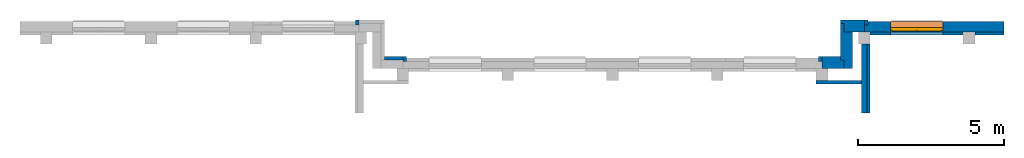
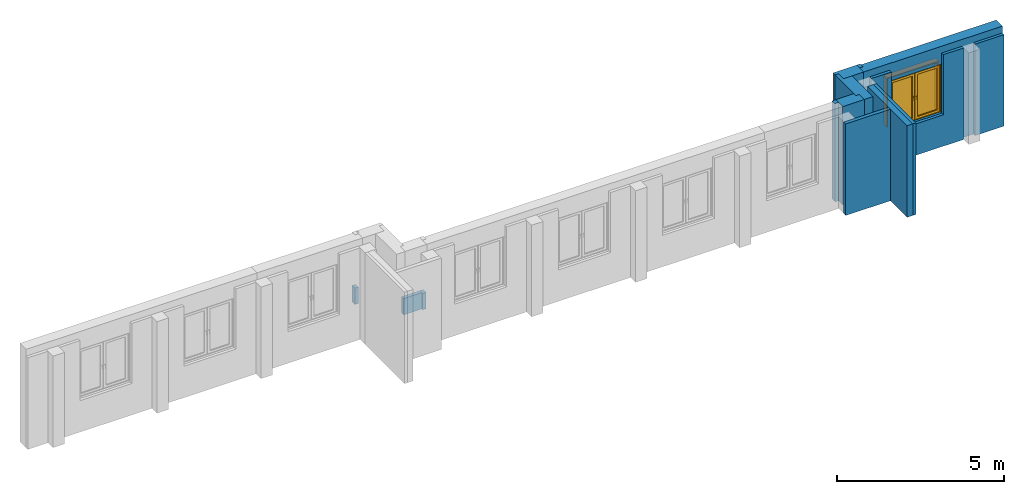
# One storey, part 4 of 7: 14 walls, 1 proxy, 1 window, 2 openings.
"""IFC4 building model written with IfcOpenShell, lengths in metres."""

from ifc_helpers import new_model, entity, si_unit, converted_unit, derived_unit, frame, frame_2d, origin, origin_with_axes, place, context, subcontext, project, spatial, polyline, rectangle, outline, extrude, closed_shell, open_shell, faceted_brep, surface_model, source, transform, mapped, material, layer, layer_set, layer_usage, element, fill, save


model = new_model("IFC4")

# Units and contexts
model_context = context("Model", 3, precision=1e-05, world=origin())
body_context = subcontext(model_context, "Body", "Model", "MODEL_VIEW")
ifc_project = project(units=[si_unit("LENGTHUNIT", "METRE"), si_unit("AREAUNIT", "SQUARE_METRE"), si_unit("VOLUMEUNIT", "CUBIC_METRE"), si_unit("MASSUNIT", "GRAM", prefix="KILO"), converted_unit("PLANEANGLEUNIT", "DEGREE", entity("IfcPlaneAngleMeasure", 0.0174532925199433), si_unit("PLANEANGLEUNIT", "RADIAN"), dimensions=[0, 0, 0, 0, 0, 0, 0]), derived_unit("THERMALTRANSMITTANCEUNIT", [(si_unit("POWERUNIT", "WATT"), 1), (si_unit("THERMODYNAMICTEMPERATUREUNIT", "KELVIN"), -1), (si_unit("LENGTHUNIT", "METRE"), -2)]), derived_unit("VOLUMETRICFLOWRATEUNIT", [(si_unit("LENGTHUNIT", "METRE"), 3), (converted_unit("TIMEUNIT", "hour", entity("IfcTimeMeasure", 3600.0), si_unit("TIMEUNIT", "SECOND"), dimensions=[0, 0, 1, 0, 0, 0, 0]), -1), (si_unit("LENGTHUNIT", "METRE"), -1)])], contexts=[model_context])

# Site, building, storey
site_placement = place(None, origin())
site = spatial("IfcSite", under=ifc_project, at=site_placement, Name="3. ASŘ", CompositionType="ELEMENT")
building_placement = place(site_placement, origin())
building = spatial("IfcBuilding", under=site, at=building_placement, Name="Pavilon B", CompositionType="ELEMENT")
storey_placement = place(building_placement, frame((0.0, 0.0, 3.6)))
storey = spatial("IfcBuildingStorey", under=building, at=storey_placement, Name="Půdorys 2.NP", CompositionType="ELEMENT", Elevation=3.6)

# Walls
ifc_material_1 = material(Name="ZDIVO Z CDm")
ifc_layer_1 = layer(ifc_material_1, 0.125)
ifc_layer_set_1 = layer_set([ifc_layer_1])
ifc_layer_usage_1 = layer_usage(ifc_layer_set_1, "AXIS2", "POSITIVE", 0.0)
wall_1_placement = place(storey_placement, frame((49.0, -17.25, -0.1), z_axis=(0.0, 0.0, 1.0), x_axis=(-1.0, 0.0, 0.0)))
element("IfcWall", 1, at=wall_1_placement, inside=storey, material=ifc_layer_usage_1, Name="ZDIVO Z CDm", context=body_context, shape_type="SweptSolid", body=[
    extrude(rectangle(XDim=1.55, YDim=0.125, at=frame_2d((0.775, 0.0625), x_axis=(1.0, 0.0))), origin_with_axes(), (0.0, 0.0, 1.0), 3.35),
])
ifc_material_2 = material(Name="ZELEZOBETONOVÁ KCE")
ifc_layer_2 = layer(ifc_material_2, 0.2)
ifc_layer_set_2 = layer_set([ifc_layer_2])
ifc_layer_usage_2 = layer_usage(ifc_layer_set_2, "AXIS2", "POSITIVE", -0.1)
wall_2_placement = place(storey_placement, frame((49.0, -16.0, -0.1), z_axis=(0.0, 0.0, 1.0), x_axis=(0.0, -1.0, 0.0)))
element("IfcWall", 2, at=wall_2_placement, inside=storey, material=ifc_layer_usage_2, Name="ZELEZOBETONOVÁ KCE", context=body_context, shape_type="SweptSolid", body=[
    extrude(rectangle(XDim=2.375, YDim=0.2, at=frame_2d((1.1875, 0.1), x_axis=(1.0, 0.0))), origin_with_axes(), (0.0, 0.0, 1.0), 3.35),
])
ifc_material_3 = material(Name="PÓROBETONOVÉ ZDIVO")
ifc_layer_3 = layer(ifc_material_3, 0.1)
ifc_layer_set_3 = layer_set([ifc_layer_3])
ifc_layer_usage_3 = layer_usage(ifc_layer_set_3, "AXIS2", "POSITIVE", 0.0)
wall_3_placement = place(storey_placement, frame((53.9, -15.6, -0.1), z_axis=(0.0, 0.0, 1.0), x_axis=(-1.0, 0.0, 0.0)))
element("IfcWall", 3, at=wall_3_placement, inside=storey, material=ifc_layer_usage_3, Name="PÓROBETONOVÉ ZDIVO", context=body_context, shape_type="SweptSolid", body=[
    extrude(rectangle(XDim=1.0, YDim=0.1, at=frame_2d((0.5, 0.05), x_axis=(1.0, 0.0))), origin_with_axes(), (0.0, 0.0, 1.0), 3.35),
])

# Wall, opening
ifc_material_4 = material(Name="PÓROBETONOVÉ ZDIVO")
ifc_layer_4 = layer(ifc_material_4, 0.1)
ifc_layer_set_4 = layer_set([ifc_layer_4])
ifc_layer_usage_4 = layer_usage(ifc_layer_set_4, "AXIS2", "POSITIVE", 0.0)
wall_4_placement = place(storey_placement, frame((52.5, -15.6, -0.1), z_axis=(0.0, 0.0, 1.0), x_axis=(-1.0, 0.0, 0.0)))
wall_4 = element("IfcWall", 4, at=wall_4_placement, inside=storey, material=ifc_layer_usage_4, Name="PÓROBETONOVÉ ZDIVO", context=body_context, shape_type="SweptSolid", body=[
    extrude(rectangle(XDim=3.2, YDim=0.1, at=frame_2d((1.6, 0.05), x_axis=(1.0, 0.0))), origin_with_axes(), (0.0, 0.0, 1.0), 3.35),
])
opening_1_placement = place(wall_4_placement, frame((2.5, 0.1, 1.15), z_axis=(0.0, -1.0, 0.0), x_axis=(0.0, 0.0, 1.0)))
element("IfcOpeningElement", 5, at=opening_1_placement, cuts=wall_4, Name="Okenní otvor", ObjectType="Opening", context=body_context, shape_type="SweptSolid", body=[
    extrude(outline(polyline([(0.0, 1.8), (2.2, 1.8), (2.2, 0.0), (0.0, 0.0), (0.0, 1.8)])), origin_with_axes(), (0.0, 0.0, 1.0), 0.1),
])

# Walls
ifc_material_5 = material(Name="PÓROBETONOVÉ ZDIVO")
ifc_layer_5 = layer(ifc_material_5, 0.1)
ifc_layer_set_5 = layer_set([ifc_layer_5])
ifc_layer_usage_5 = layer_usage(ifc_layer_set_5, "AXIS2", "POSITIVE", 0.0)
wall_5_placement = place(storey_placement, frame((49.2, -16.0, -0.1), z_axis=(0.0, 0.0, 1.0), x_axis=(0.0, -1.0, 0.0)))
element("IfcWall", 6, at=wall_5_placement, inside=storey, material=ifc_layer_usage_5, Name="PÓROBETONOVÉ ZDIVO", context=body_context, shape_type="SweptSolid", body=[
    extrude(rectangle(XDim=2.375, YDim=0.1, at=frame_2d((1.1875, 0.05), x_axis=(1.0, 0.0))), origin_with_axes(), (0.0, 0.0, 1.0), 3.35),
])
ifc_material_6 = material(Name="MINERÁLNÍ VATA")
ifc_layer_6 = layer(ifc_material_6, 0.12)
ifc_layer_set_6 = layer_set([ifc_layer_6])
ifc_layer_usage_6 = layer_usage(ifc_layer_set_6, "AXIS2", "POSITIVE", 0.0)
wall_6_placement = place(storey_placement, frame((47.65, -16.6, -0.1), z_axis=(0.0, 0.0, 1.0), x_axis=(0.0, 1.0, 0.0)))
element("IfcWall", 7, at=wall_6_placement, inside=storey, material=ifc_layer_usage_6, Name="ZELEZOBETONOVÁ KCE", context=body_context, shape_type="SweptSolid", body=[
    extrude(rectangle(XDim=0.17, YDim=0.12, at=frame_2d((0.085, 0.06), x_axis=(1.0, 0.0))), origin_with_axes(), (0.0, 0.0, 1.0), 3.6),
])
ifc_material_7 = material(Name="ZELEZOBETONOVÁ KCE")
ifc_layer_7 = layer(ifc_material_7, 0.3)
ifc_material_8 = material(Name="MINERÁLNÍ VATA")
ifc_layer_8 = layer(ifc_material_8, 0.12)
ifc_layer_set_7 = layer_set([ifc_layer_7, ifc_layer_8])
ifc_layer_usage_7 = layer_usage(ifc_layer_set_7, "AXIS2", "POSITIVE", 0.0)
wall_7_placement = place(storey_placement, frame((47.65, -16.85, -0.1)))
element("IfcWall", 8, at=wall_7_placement, inside=storey, material=ifc_layer_usage_7, Name="ZELEZOBETONOVÁ KCE", context=body_context, shape_type="SweptSolid", body=[
    extrude(outline(polyline([(0.0, 0.0), (0.75, 0.0), (0.75, 0.3), (0.63, 0.3), (0.63, 0.42), (0.0, 0.42), (0.0, 0.0)])), origin_with_axes(), (0.0, 0.0, 1.0), 3.6),
])
ifc_material_9 = material(Name="ZELEZOBETONOVÁ KCE")
ifc_layer_9 = layer(ifc_material_9, 0.3)
ifc_material_10 = material(Name="MINERÁLNÍ VATA")
ifc_layer_10 = layer(ifc_material_10, 0.12)
ifc_layer_set_8 = layer_set([ifc_layer_9, ifc_layer_10])
ifc_layer_usage_8 = layer_usage(ifc_layer_set_8, "AXIS2", "POSITIVE", 0.0)
wall_8_placement = place(storey_placement, frame((48.7, -16.85, -0.1), z_axis=(0.0, 0.0, 1.0), x_axis=(0.0, 1.0, 0.0)))
element("IfcWall", 9, at=wall_8_placement, inside=storey, material=ifc_layer_usage_8, Name="ZELEZOBETONOVÁ KCE", context=body_context, shape_type="SweptSolid", body=[
    extrude(outline(polyline([(0.0, -0.42), (1.25, -0.42), (1.25, -0.12), (1.55, -0.12), (1.55, 0.0), (0.3, 0.0), (0.3, -0.12), (0.0, -0.12), (0.0, -0.42)])), frame((0.0, 0.42, 0.0), z_axis=(0.0, 0.0, 1.0), x_axis=(1.0, 0.0, 0.0)), (0.0, 0.0, 1.0), 3.6),
])
ifc_material_11 = material(Name="ZELEZOBETONOVÁ KCE")
ifc_layer_11 = layer(ifc_material_11, 0.3)
ifc_material_12 = material(Name="MINERÁLNÍ VATA")
ifc_layer_12 = layer(ifc_material_12, 0.12)
ifc_layer_set_9 = layer_set([ifc_layer_11, ifc_layer_12])
ifc_layer_usage_9 = layer_usage(ifc_layer_set_9, "AXIS2", "POSITIVE", 0.0)
wall_9_placement = place(storey_placement, frame((48.4, -15.6, -0.1)))
element("IfcWall", 10, at=wall_9_placement, inside=storey, material=ifc_layer_usage_9, Name="ZELEZOBETONOVÁ KCE", context=body_context, shape_type="SweptSolid", body=[
    extrude(outline(polyline([(0.0, 0.42), (0.0, 0.3), (0.12, 0.3), (0.12, 0.0), (0.82, 0.0), (0.82, 0.42), (0.0, 0.42)])), frame((-0.12, 0.0, 0.0), z_axis=(0.0, 0.0, 1.0), x_axis=(1.0, 0.0, 0.0)), (0.0, 0.0, 1.0), 3.6),
])
ifc_material_13 = material(Name="MINERÁLNÍ VATA")
ifc_layer_13 = layer(ifc_material_13, 0.12)
ifc_layer_set_10 = layer_set([ifc_layer_13])
ifc_layer_usage_10 = layer_usage(ifc_layer_set_10, "AXIS2", "POSITIVE", 0.0)
wall_10_placement = place(storey_placement, frame((49.1, -15.18, -0.1), z_axis=(0.0, 0.0, 1.0), x_axis=(0.0, -1.0, 0.0)))
element("IfcWall", 11, at=wall_10_placement, inside=storey, material=ifc_layer_usage_10, Name="ZELEZOBETONOVÁ KCE", context=body_context, shape_type="SweptSolid", body=[
    extrude(rectangle(XDim=0.17, YDim=0.12, at=frame_2d((0.085, 0.06), x_axis=(1.0, 0.0))), origin_with_axes(), (0.0, 0.0, 1.0), 3.6),
])

# Wall, opening, window, proxy
ifc_material_14 = material(Name="ZELEZOBETONOVÁ KCE")
ifc_layer_14 = layer(ifc_material_14, 0.25)
ifc_material_15 = material(Name="MINERÁLNÍ VATA")
ifc_layer_15 = layer(ifc_material_15, 0.12)
ifc_layer_set_11 = layer_set([ifc_layer_14, ifc_layer_15])
ifc_layer_usage_11 = layer_usage(ifc_layer_set_11, "AXIS2", "POSITIVE", 0.0)
wall_11_placement = place(storey_placement, frame((49.1, -15.6, -0.1)))
wall_11 = element("IfcWall", 12, at=wall_11_placement, inside=storey, material=ifc_layer_usage_11, Name="ZELEZOBETONOVÁ KCE", context=body_context, shape_type="SweptSolid", body=[
    extrude(outline(polyline([(0.12, 0.37), (0.12, 0.25), (0.0, 0.25), (0.0, 0.0), (4.8, 0.0), (4.8, 0.37), (0.12, 0.37)])), origin_with_axes(), (0.0, 0.0, 1.0), 3.6),
])
opening_2_placement = place(wall_11_placement, frame((2.7, 0.37, 1.15), z_axis=(0.0, -1.0, 0.0), x_axis=(0.0, 0.0, 1.0)))
opening_2 = element("IfcOpeningElement", 13, at=opening_2_placement, cuts=wall_11, Name="Okenní otvor", ObjectType="Opening", context=body_context, shape_type="SweptSolid", body=[
    extrude(outline(polyline([(0.0, 1.8), (1.8, 1.8), (1.8, 0.0), (0.0, 0.0), (0.0, 1.8)])), origin_with_axes(), (0.0, 0.0, 1.0), 0.12),
    extrude(outline(polyline([(0.0, 1.8), (1.8, 1.8), (1.8, 0.0), (0.0, 0.0), (0.0, 1.8)])), frame((0.0, 0.0, 0.12), z_axis=(0.0, 0.0, 1.0), x_axis=(1.0, 0.0, 0.0)), (0.0, 0.0, 1.0), 0.25),
])
shared_shape = source(origin_with_axes(), body_context, "Body", "SurfaceModel", [
    surface_model("IfcShellBasedSurfaceModel", [(0.0, 0.182, 1.8), (0.0, 0.182, -5.63337527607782e-18), (0.08, 0.182, -5.63337527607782e-18), (0.08, 0.182, 1.8), (0.0, 0.0899999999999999, 5.63337527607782e-18), (0.0, 0.0900000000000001, 1.8), (0.08, 0.0900000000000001, 1.8), (0.08, 0.0899999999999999, 5.63337527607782e-18)], [closed_shell([[[0, 1, 2, 3]], [[4, 5, 6, 7]], [[1, 0, 5, 4]], [[2, 1, 4, 7]], [[3, 2, 7, 6]], [[0, 3, 6, 5]]], orient=[[False], [False], [False], [False], [False], [False]])]),
    surface_model("IfcShellBasedSurfaceModel", [(1.72, 0.182, 1.8), (1.72, 0.182, -5.63337527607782e-18), (1.8, 0.182, -5.63337527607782e-18), (1.8, 0.182, 1.8), (1.72, 0.0899999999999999, 5.63337527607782e-18), (1.72, 0.0900000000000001, 1.8), (1.8, 0.0900000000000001, 1.8), (1.8, 0.0899999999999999, 5.63337527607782e-18)], [closed_shell([[[0, 1, 2, 3]], [[4, 5, 6, 7]], [[1, 0, 5, 4]], [[2, 1, 4, 7]], [[3, 2, 7, 6]], [[0, 3, 6, 5]]], orient=[[False], [False], [False], [False], [False], [False]])]),
    surface_model("IfcShellBasedSurfaceModel", [(0.08, 0.182, 0.08), (0.08, 0.182, -5.63337527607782e-18), (1.72, 0.182, -5.63337527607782e-18), (1.72, 0.182, 0.08), (0.08, 0.0899999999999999, 5.63337527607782e-18), (0.08, 0.0899999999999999, 0.08), (1.72, 0.0899999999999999, 0.08), (1.72, 0.0899999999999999, 5.63337527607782e-18)], [closed_shell([[[0, 1, 2, 3]], [[4, 5, 6, 7]], [[1, 0, 5, 4]], [[2, 1, 4, 7]], [[3, 2, 7, 6]], [[0, 3, 6, 5]]], orient=[[False], [False], [False], [False], [False], [False]])]),
    surface_model("IfcShellBasedSurfaceModel", [(0.08, 0.182, 1.8), (0.08, 0.182, 1.72), (1.72, 0.182, 1.72), (1.72, 0.182, 1.8), (0.08, 0.0900000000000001, 1.72), (0.08, 0.0900000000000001, 1.8), (1.72, 0.0900000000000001, 1.8), (1.72, 0.0900000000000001, 1.72)], [closed_shell([[[0, 1, 2, 3]], [[4, 5, 6, 7]], [[1, 0, 5, 4]], [[2, 1, 4, 7]], [[3, 2, 7, 6]], [[0, 3, 6, 5]]], orient=[[False], [False], [False], [False], [False], [False]])]),
    surface_model("IfcShellBasedSurfaceModel", [(0.86, 0.182, 1.72), (0.86, 0.182, 0.08), (0.94, 0.182, 0.08), (0.94, 0.182, 1.72), (0.86, 0.0899999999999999, 0.08), (0.86, 0.0900000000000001, 1.72), (0.94, 0.0900000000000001, 1.72), (0.94, 0.0899999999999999, 0.08)], [closed_shell([[[0, 1, 2, 3]], [[4, 5, 6, 7]], [[1, 0, 5, 4]], [[2, 1, 4, 7]], [[3, 2, 7, 6]], [[0, 3, 6, 5]]], orient=[[False], [False], [False], [False], [False], [False]])]),
    surface_model("IfcShellBasedSurfaceModel", [(0.05, 0.145, 1.75), (0.05, 0.145, 0.05), (0.13, 0.145, 0.05), (0.13, 0.145, 1.75), (0.05, 0.0599999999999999, 0.05), (0.05, 0.0600000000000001, 1.75), (0.13, 0.0600000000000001, 1.75), (0.13, 0.0599999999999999, 0.05)], [closed_shell([[[0, 1, 2, 3]], [[4, 5, 6, 7]], [[1, 0, 5, 4]], [[2, 1, 4, 7]], [[3, 2, 7, 6]], [[0, 3, 6, 5]]], orient=[[False], [False], [False], [False], [False], [False]])]),
    surface_model("IfcShellBasedSurfaceModel", [(0.81, 0.145, 1.75), (0.81, 0.145, 0.05), (0.89, 0.145, 0.05), (0.89, 0.145, 1.75), (0.81, 0.0599999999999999, 0.05), (0.81, 0.0600000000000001, 1.75), (0.89, 0.0600000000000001, 1.75), (0.89, 0.0599999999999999, 0.05)], [closed_shell([[[0, 1, 2, 3]], [[4, 5, 6, 7]], [[1, 0, 5, 4]], [[2, 1, 4, 7]], [[3, 2, 7, 6]], [[0, 3, 6, 5]]], orient=[[False], [False], [False], [False], [False], [False]])]),
    surface_model("IfcShellBasedSurfaceModel", [(0.13, 0.145, 0.13), (0.13, 0.145, 0.05), (0.81, 0.145, 0.05), (0.81, 0.145, 0.13), (0.13, 0.0599999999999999, 0.05), (0.13, 0.0599999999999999, 0.13), (0.81, 0.0599999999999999, 0.13), (0.81, 0.0599999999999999, 0.05)], [closed_shell([[[0, 1, 2, 3]], [[4, 5, 6, 7]], [[1, 0, 5, 4]], [[2, 1, 4, 7]], [[3, 2, 7, 6]], [[0, 3, 6, 5]]], orient=[[False], [False], [False], [False], [False], [False]])]),
    surface_model("IfcShellBasedSurfaceModel", [(0.13, 0.145, 1.75), (0.13, 0.145, 1.67), (0.81, 0.145, 1.67), (0.81, 0.145, 1.75), (0.13, 0.0600000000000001, 1.67), (0.13, 0.0600000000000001, 1.75), (0.81, 0.0600000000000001, 1.75), (0.81, 0.0600000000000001, 1.67)], [closed_shell([[[0, 1, 2, 3]], [[4, 5, 6, 7]], [[1, 0, 5, 4]], [[2, 1, 4, 7]], [[3, 2, 7, 6]], [[0, 3, 6, 5]]], orient=[[False], [False], [False], [False], [False], [False]])]),
    surface_model("IfcShellBasedSurfaceModel", [(0.8375, 0.06, 0.92), (0.8375, 0.06, 0.88), (0.8625, 0.06, 0.88), (0.8625, 0.06, 0.92), (0.8375, 0.05, 0.88), (0.8375, 0.05, 0.92), (0.8625, 0.05, 0.92), (0.8625, 0.05, 0.88)], [closed_shell([[[0, 1, 2, 3]], [[4, 5, 6, 7]], [[1, 0, 5, 4]], [[2, 1, 4, 7]], [[3, 2, 7, 6]], [[0, 3, 6, 5]]], orient=[[False], [False], [False], [False], [False], [False]])]),
    surface_model("IfcShellBasedSurfaceModel", [(0.86, 0.05, 0.9), (0.858660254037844, 0.05, 0.905), (0.855, 0.05, 0.908660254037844), (0.85, 0.05, 0.91), (0.845, 0.05, 0.908660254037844), (0.841339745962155, 0.05, 0.905), (0.84, 0.05, 0.9), (0.841339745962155, 0.05, 0.895), (0.845, 0.05, 0.891339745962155), (0.85, 0.05, 0.89), (0.855, 0.05, 0.891339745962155), (0.858660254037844, 0.05, 0.895), (0.86, 0.01, 0.9), (0.858660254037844, 0.00500000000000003, 0.905), (0.855, 0.00133974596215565, 0.908660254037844), (0.85, 2.8421709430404e-17, 0.91), (0.845, 0.00133974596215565, 0.908660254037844), (0.841339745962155, 0.00500000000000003, 0.905), (0.84, 0.01, 0.9), (0.841339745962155, 0.015, 0.895), (0.845, 0.0186602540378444, 0.891339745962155), (0.85, 0.02, 0.89), (0.855, 0.0186602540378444, 0.891339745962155), (0.858660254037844, 0.015, 0.895), (0.86, 0.01, 0.785), (0.858660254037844, 0.005, 0.785), (0.855, 0.00133974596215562, 0.785), (0.85, 0.0, 0.785), (0.845, 0.00133974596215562, 0.785), (0.841339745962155, 0.005, 0.785), (0.84, 0.01, 0.785), (0.841339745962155, 0.015, 0.785), (0.845, 0.0186602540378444, 0.785), (0.85, 0.02, 0.785), (0.855, 0.0186602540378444, 0.785), (0.858660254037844, 0.015, 0.785)], [open_shell([[[0, 1, 2, 3, 4, 5, 6, 7, 8, 9, 10, 11]], [[0, 12, 13, 1]], [[1, 13, 14, 2]], [[2, 14, 15, 3]], [[3, 15, 16, 4]], [[4, 16, 17, 5]], [[5, 17, 18, 6]], [[6, 18, 19, 7]], [[7, 19, 20, 8]], [[8, 20, 21, 9]], [[9, 21, 22, 10]], [[10, 22, 23, 11]], [[11, 23, 12, 0]], [[12, 24, 25, 13]], [[13, 25, 26, 14]], [[14, 26, 27, 15]], [[15, 27, 28, 16]], [[16, 28, 29, 17]], [[17, 29, 30, 18]], [[18, 30, 31, 19]], [[19, 31, 32, 20]], [[20, 32, 33, 21]], [[21, 33, 34, 22]], [[22, 34, 35, 23]], [[23, 35, 24, 12]]], orient=[[False], [False], [False], [False], [False], [False], [False], [False], [False], [False], [False], [False], [False], [False], [False], [False], [False], [False], [False], [False], [False], [False], [False], [False], [False]])]),
    surface_model("IfcShellBasedSurfaceModel", [(0.91, 0.145, 1.75), (0.91, 0.145, 0.05), (0.99, 0.145, 0.05), (0.99, 0.145, 1.75), (0.91, 0.0599999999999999, 0.05), (0.91, 0.0600000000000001, 1.75), (0.99, 0.0600000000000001, 1.75), (0.99, 0.0599999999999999, 0.05)], [closed_shell([[[0, 1, 2, 3]], [[4, 5, 6, 7]], [[1, 0, 5, 4]], [[2, 1, 4, 7]], [[3, 2, 7, 6]], [[0, 3, 6, 5]]], orient=[[False], [False], [False], [False], [False], [False]])]),
    surface_model("IfcShellBasedSurfaceModel", [(1.67, 0.145, 1.75), (1.67, 0.145, 0.05), (1.75, 0.145, 0.05), (1.75, 0.145, 1.75), (1.67, 0.0599999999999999, 0.05), (1.67, 0.0600000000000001, 1.75), (1.75, 0.0600000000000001, 1.75), (1.75, 0.0599999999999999, 0.05)], [closed_shell([[[0, 1, 2, 3]], [[4, 5, 6, 7]], [[1, 0, 5, 4]], [[2, 1, 4, 7]], [[3, 2, 7, 6]], [[0, 3, 6, 5]]], orient=[[False], [False], [False], [False], [False], [False]])]),
    surface_model("IfcShellBasedSurfaceModel", [(0.99, 0.145, 0.13), (0.99, 0.145, 0.05), (1.67, 0.145, 0.05), (1.67, 0.145, 0.13), (0.99, 0.0599999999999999, 0.05), (0.99, 0.0599999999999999, 0.13), (1.67, 0.0599999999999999, 0.13), (1.67, 0.0599999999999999, 0.05)], [closed_shell([[[0, 1, 2, 3]], [[4, 5, 6, 7]], [[1, 0, 5, 4]], [[2, 1, 4, 7]], [[3, 2, 7, 6]], [[0, 3, 6, 5]]], orient=[[False], [False], [False], [False], [False], [False]])]),
    surface_model("IfcShellBasedSurfaceModel", [(0.99, 0.145, 1.75), (0.99, 0.145, 1.67), (1.67, 0.145, 1.67), (1.67, 0.145, 1.75), (0.99, 0.0600000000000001, 1.67), (0.99, 0.0600000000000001, 1.75), (1.67, 0.0600000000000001, 1.75), (1.67, 0.0600000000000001, 1.67)], [closed_shell([[[0, 1, 2, 3]], [[4, 5, 6, 7]], [[1, 0, 5, 4]], [[2, 1, 4, 7]], [[3, 2, 7, 6]], [[0, 3, 6, 5]]], orient=[[False], [False], [False], [False], [False], [False]])]),
    surface_model("IfcShellBasedSurfaceModel", [(0.9375, 0.06, 0.92), (0.9375, 0.06, 0.88), (0.9625, 0.06, 0.88), (0.9625, 0.06, 0.92), (0.9375, 0.05, 0.88), (0.9375, 0.05, 0.92), (0.9625, 0.05, 0.92), (0.9625, 0.05, 0.88)], [closed_shell([[[0, 1, 2, 3]], [[4, 5, 6, 7]], [[1, 0, 5, 4]], [[2, 1, 4, 7]], [[3, 2, 7, 6]], [[0, 3, 6, 5]]], orient=[[False], [False], [False], [False], [False], [False]])]),
    surface_model("IfcShellBasedSurfaceModel", [(0.96, 0.05, 0.9), (0.958660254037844, 0.05, 0.905), (0.955, 0.05, 0.908660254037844), (0.95, 0.05, 0.91), (0.945, 0.05, 0.908660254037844), (0.941339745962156, 0.05, 0.905), (0.94, 0.05, 0.9), (0.941339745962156, 0.05, 0.895), (0.945, 0.05, 0.891339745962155), (0.95, 0.05, 0.89), (0.955, 0.05, 0.891339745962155), (0.958660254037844, 0.05, 0.895), (0.96, 0.01, 0.9), (0.958660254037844, 0.00500000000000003, 0.905), (0.955, 0.00133974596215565, 0.908660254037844), (0.95, 2.8421709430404e-17, 0.91), (0.945, 0.00133974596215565, 0.908660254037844), (0.941339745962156, 0.00500000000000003, 0.905), (0.94, 0.01, 0.9), (0.941339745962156, 0.015, 0.895), (0.945, 0.0186602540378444, 0.891339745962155), (0.95, 0.02, 0.89), (0.955, 0.0186602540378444, 0.891339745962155), (0.958660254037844, 0.015, 0.895), (0.96, 0.01, 0.785), (0.958660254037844, 0.005, 0.785), (0.955, 0.00133974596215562, 0.785), (0.95, 0.0, 0.785), (0.945, 0.00133974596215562, 0.785), (0.941339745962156, 0.005, 0.785), (0.94, 0.01, 0.785), (0.941339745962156, 0.015, 0.785), (0.945, 0.0186602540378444, 0.785), (0.95, 0.02, 0.785), (0.955, 0.0186602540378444, 0.785), (0.958660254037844, 0.015, 0.785)], [open_shell([[[0, 1, 2, 3, 4, 5, 6, 7, 8, 9, 10, 11]], [[0, 12, 13, 1]], [[1, 13, 14, 2]], [[2, 14, 15, 3]], [[3, 15, 16, 4]], [[4, 16, 17, 5]], [[5, 17, 18, 6]], [[6, 18, 19, 7]], [[7, 19, 20, 8]], [[8, 20, 21, 9]], [[9, 21, 22, 10]], [[10, 22, 23, 11]], [[11, 23, 12, 0]], [[12, 24, 25, 13]], [[13, 25, 26, 14]], [[14, 26, 27, 15]], [[15, 27, 28, 16]], [[16, 28, 29, 17]], [[17, 29, 30, 18]], [[18, 30, 31, 19]], [[19, 31, 32, 20]], [[20, 32, 33, 21]], [[21, 33, 34, 22]], [[22, 34, 35, 23]], [[23, 35, 24, 12]]], orient=[[False], [False], [False], [False], [False], [False], [False], [False], [False], [False], [False], [False], [False], [False], [False], [False], [False], [False], [False], [False], [False], [False], [False], [False], [False]])]),
    surface_model("IfcShellBasedSurfaceModel", [(0.13, 0.1025, 0.13), (0.81, 0.1025, 0.13), (0.81, 0.1025, 1.67), (0.13, 0.1025, 1.67)], [open_shell([[[0, 1, 2, 3]]], orient=[[False]])]),
    surface_model("IfcShellBasedSurfaceModel", [(0.99, 0.1025, 0.13), (1.67, 0.1025, 0.13), (1.67, 0.1025, 1.67), (0.99, 0.1025, 1.67)], [open_shell([[[0, 1, 2, 3]]], orient=[[False]])]),
])
window_placement = place(opening_2_placement, frame((0.0, 0.0, 0.382), z_axis=(1.0, 0.0, 0.0), x_axis=(0.0, 1.0, -2.44929359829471e-16)))
window = element("IfcWindow", 14, at=window_placement, inside=storey, Name="O06", OverallHeight=1.8, OverallWidth=1.8, PartitioningType="USERDEFINED", PredefinedType="WINDOW", context=body_context, shape_type="MappedRepresentation", body=[
    mapped(shared_shape, transform((0.0, 0.0, 0.0), x_axis=(1.0, 0.0, 0.0), y_axis=(0.0, -1.0, 0.0), z_axis=(0.0, 0.0, 1.0), scale=1.0)),
])
fill(opening_2, window)
ifc_material_16 = material(Name="MINERÁLNÍ VATA")
proxy_placement = place(opening_2_placement, frame((0.0, 1.8, 0.2)))
proxy = element("IfcBuildingElementProxy", 15, at=proxy_placement, inside=storey, material=ifc_material_16, context=body_context, shape_type="Brep", body=[
    faceted_brep([(0.0, -1.8, -0.2), (0.0, -1.8, 0.0), (1.8, -1.8, 0.0), (1.8, -1.8, -0.2), (0.0, -1.76, 0.0), (0.0, -1.76, -0.2), (1.76, -1.76, -0.2), (1.76, -1.76, 0.0), (1.8, 0.0, 0.0), (1.8, 0.0, -0.2), (0.0, 0.0, -0.2), (0.0, -0.0400000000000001, -0.2), (1.76, -0.0400000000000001, -0.2), (1.76, -0.0400000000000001, 0.0), (0.0, -0.0400000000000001, 0.0), (0.0, 0.0, 0.0)], [[[0, 1, 2, 3]], [[4, 5, 6, 7]], [[0, 5, 4, 1]], [[3, 2, 8, 9]], [[6, 5, 0, 3, 9, 10, 11, 12]], [[13, 14, 15, 8, 2, 1, 4, 7]], [[7, 6, 12, 13]], [[11, 14, 13, 12]], [[15, 10, 9, 8]], [[11, 10, 15, 14]]], orient=[[False], [False], [False], [False], [False], [False], [False], [False], [False], [False]]),
])
fill(opening_2, proxy)

# Walls
ifc_material_17 = material(Name="MINERÁLNÍ VATA")
ifc_layer_16 = layer(ifc_material_17, 0.12)
ifc_layer_set_12 = layer_set([ifc_layer_16])
ifc_layer_usage_12 = layer_usage(ifc_layer_set_12, "AXIS2", "POSITIVE", 0.0)
wall_12_placement = place(storey_placement, frame((31.63, -15.18, 0.95), z_axis=(0.0, 0.0, 1.0), x_axis=(0.0, -1.0, 0.0)))
element("IfcWall", 16, at=wall_12_placement, inside=storey, material=ifc_layer_usage_12, Name="MINERÁLNÍ VATA", context=body_context, shape_type="SweptSolid", body=[
    extrude(rectangle(XDim=0.17, YDim=0.12, at=frame_2d((0.085, 0.06), x_axis=(1.0, 0.0))), origin_with_axes(), (0.0, 0.0, 1.0), 0.6),
])
ifc_material_18 = material(Name="MINERÁLNÍ VATA")
ifc_layer_17 = layer(ifc_material_18, 0.12)
ifc_layer_set_13 = layer_set([ifc_layer_17])
ifc_layer_usage_13 = layer_usage(ifc_layer_set_13, "AXIS2", "POSITIVE", 0.0)
wall_13_placement = place(storey_placement, frame((33.25, -16.43, 0.95), z_axis=(0.0, 0.0, 1.0), x_axis=(-1.0, 0.0, 0.0)))
element("IfcWall", 17, at=wall_13_placement, inside=storey, material=ifc_layer_usage_13, Name="MINERÁLNÍ VATA", context=body_context, shape_type="SweptSolid", body=[
    extrude(rectangle(XDim=0.63, YDim=0.12, at=frame_2d((0.315, 0.06), x_axis=(1.0, 0.0))), origin_with_axes(), (0.0, 0.0, 1.0), 0.6),
])
ifc_material_19 = material(Name="MINERÁLNÍ VATA")
ifc_layer_18 = layer(ifc_material_19, 0.12)
ifc_layer_set_14 = layer_set([ifc_layer_18])
ifc_layer_usage_14 = layer_usage(ifc_layer_set_14, "AXIS2", "POSITIVE", 0.0)
wall_14_placement = place(storey_placement, frame((33.37, -16.6000000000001, 0.95), z_axis=(0.0, 0.0, 1.0), x_axis=(0.0, 1.0, 0.0)))
element("IfcWall", 18, at=wall_14_placement, inside=storey, material=ifc_layer_usage_14, Name="MINERÁLNÍ VATA", context=body_context, shape_type="SweptSolid", body=[
    extrude(rectangle(XDim=0.170000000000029, YDim=0.12, at=frame_2d((0.0850000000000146, 0.06), x_axis=(1.0, 0.0))), origin_with_axes(), (0.0, 0.0, 1.0), 0.6),
])

save(model, "model.ifc")
